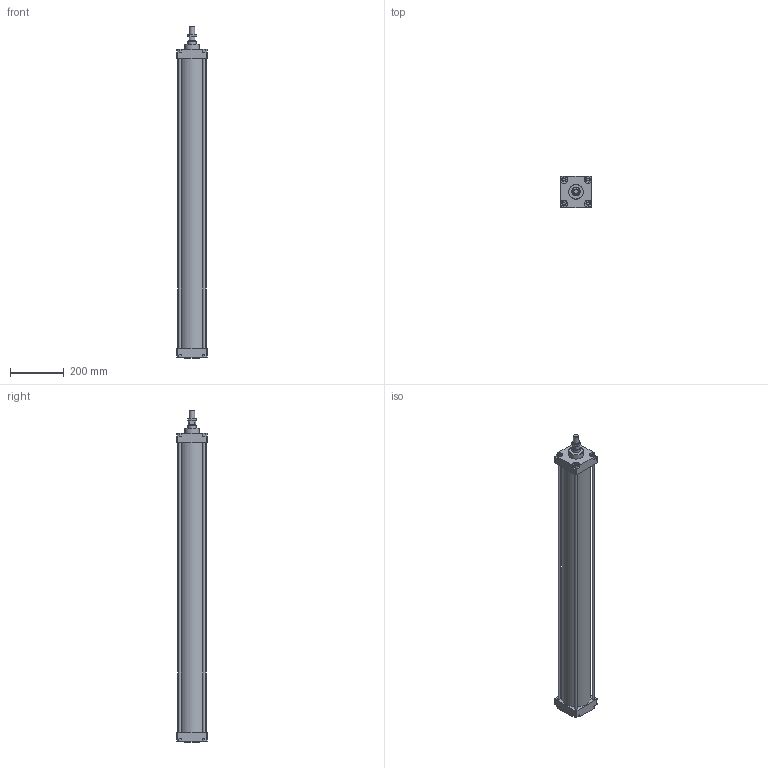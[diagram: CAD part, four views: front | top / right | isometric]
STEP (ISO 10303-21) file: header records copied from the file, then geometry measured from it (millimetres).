
FILE_DESCRIPTION(/* description */ (''),/* implementation_level */ '2;1');
FILE_NAME(/* name */ 'I:\Area Tecnica\Disegni\VARIE-3D\Componenti\CSP\Ø100\130#_100_####_###\130#_100_1000_01A.stp',/* time_stamp */ '2016-11-24T13:52:45+01:00',/* author */ ('Maniean1'),/* organization */ ('Pneumax S.p.A.'),/* preprocessor_version */ 'ST-DEVELOPER v15.2',/* originating_system */ 'Autodesk Inventor 2014',/* authorisation */ '');
FILE_SCHEMA (('AUTOMOTIVE_DESIGN { 1 0 10303 214 3 1 1 }'));
Length unit declared in the file: millimetre
Products named in the file (6): C_130#_100_1000; Testata anteriore_100; Testata posteriore_100; S_130#_100_1000_01A; 130#_100_18F; 130#_100_1000_01A
Bounding box: 115 x 115 x 1234 mm (x, y, z)
Volume: 3597154 mm3; surface area: 1091016.6 mm2
Topology: 9 solids, 9 shells, 162 faces, 380 edges, 249 vertices
Faces by surface type: plane 105, cylinder 42, cone 15
Full cylindrical faces by diameter (mm): 10 x12, 18.376 x1, 18.5 x1, 19 x2, 20 x1, 28 x1, 30 x3, 55 x2, 100 x2, 106 x1
Entity records: 4530 total; most frequent: CARTESIAN_POINT 785, DIRECTION 764, ORIENTED_EDGE 672, EDGE_CURVE 336, AXIS2_PLACEMENT_3D 271, VERTEX_POINT 244, EDGE_LOOP 236, LINE 222
